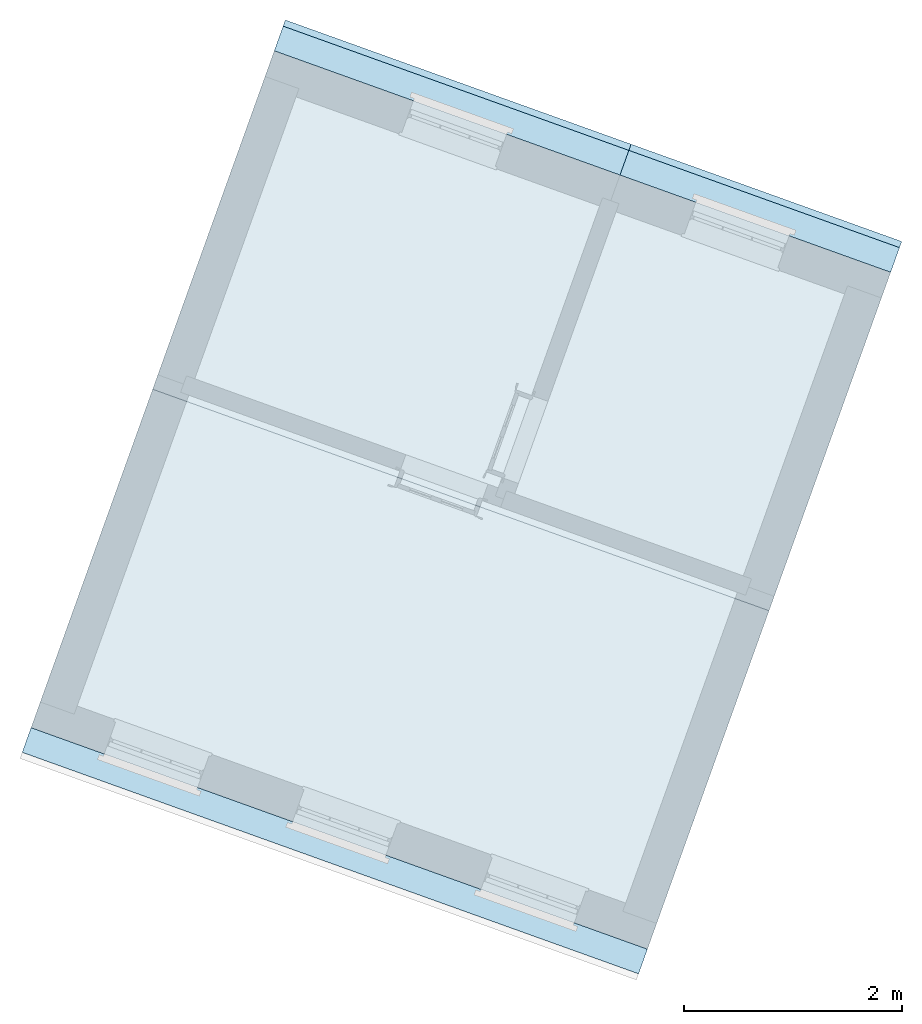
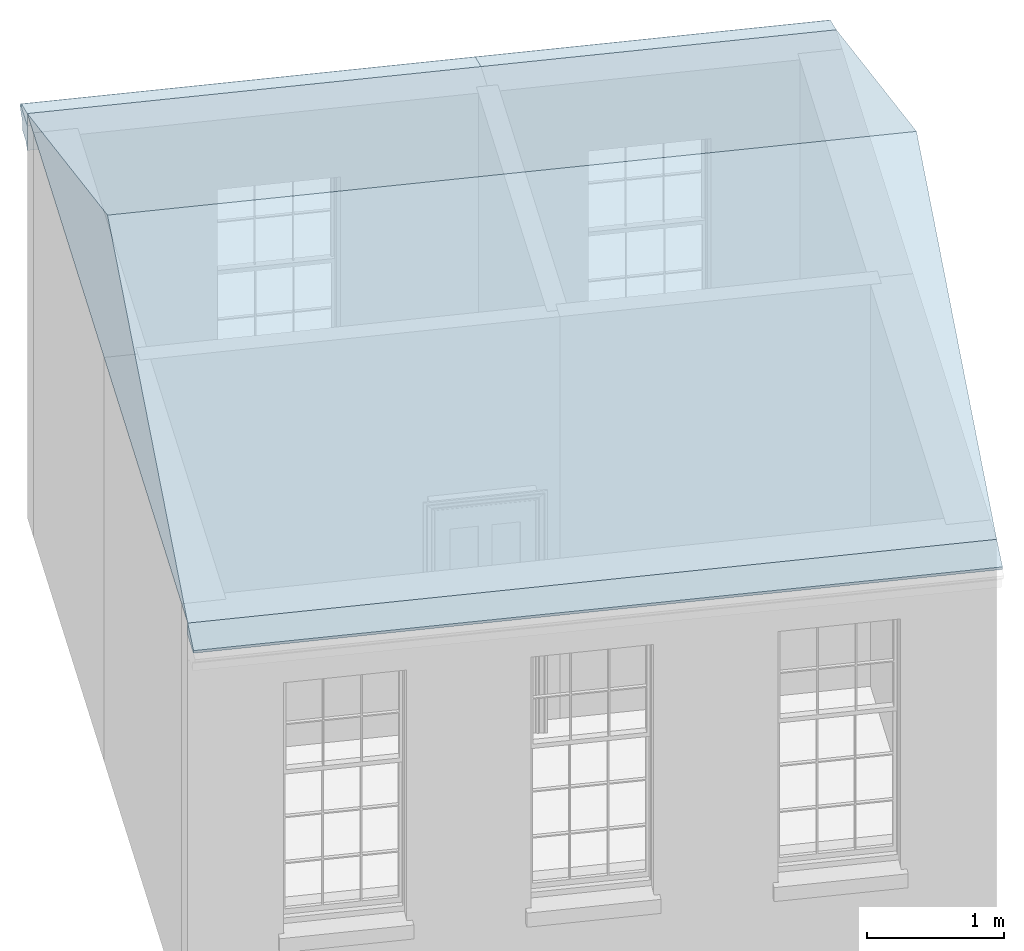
# One storey, part 3 of 3: 6 roofs.
"""IFC4 building model written with IfcOpenShell, lengths in metres."""

import ifcopenshell
import ifcopenshell.guid

model = None  # the IFC model being written
_history = None  # IfcOwnerHistory: only IFC2X3 demands one
_inside = {}  # id of a spatial element -> (the spatial element, [elements in it])
_under = {}  # id of a project, library or spatial element -> (it, [spatial elements below it])
_declared = {}  # id of a project -> (the project, [libraries it declares])
_typed = {}  # id of a type object -> (the type object, [elements of that type])
_made_of = {}  # id of a material, layer set ... -> (it, [elements and type objects made of it])


def new_model(schema):
    """Start an empty IFC model of exactly this schema.

    Asked for "IFC4X3", IfcOpenShell would pick the latest addendum, in which some entities
    have other attributes; the version numbers below select the first issue.
    IFC2X3 requires an IfcOwnerHistory on every rooted entity: one is made here for all.
    """
    global model, _history
    if schema == "IFC4X3":
        model = ifcopenshell.file(schema_version=(4, 3, 0, 0))
    else:
        model = ifcopenshell.file(schema=schema)
    _inside.clear()
    _under.clear()
    _declared.clear()
    _typed.clear()
    _made_of.clear()
    _history = None
    if model.schema == "IFC2X3":
        org = make("IfcOrganization", Name="unknown")
        user = make(
            "IfcPersonAndOrganization",
            ThePerson=make("IfcPerson", FamilyName="unknown"),
            TheOrganization=org,
        )
        app = make(
            "IfcApplication",
            ApplicationDeveloper=org,
            Version="unknown",
            ApplicationFullName="unknown",
            ApplicationIdentifier="unknown",
        )
        _history = make(
            "IfcOwnerHistory",
            OwningUser=user,
            OwningApplication=app,
            ChangeAction="ADDED",
            CreationDate=0,
        )
    return model


def make(cls, **values):
    """One entity of the class cls with the attributes given. An attribute that is None is left unset."""
    return model.create_entity(
        cls, **{name: value for name, value in values.items() if value is not None}
    )


def rooted(cls, **values):
    """An entity with a GlobalId (a new one), such as an element, a storey or a relation."""
    return make(cls, GlobalId=ifcopenshell.guid.new(), OwnerHistory=_history, **values)


def si_unit(unit_type, name, prefix=None):
    """IfcSIUnit, for example si_unit("LENGTHUNIT", "METRE", prefix="MILLI")."""
    return make("IfcSIUnit", UnitType=unit_type, Prefix=prefix, Name=name)


def assignment(units):
    """IfcUnitAssignment: the units of a project."""
    return None if units is None else make("IfcUnitAssignment", Units=units)


def point(xyz):
    """IfcCartesianPoint."""
    return None if xyz is None else make("IfcCartesianPoint", Coordinates=xyz)


def direction(xyz):
    """IfcDirection."""
    return None if xyz is None else make("IfcDirection", DirectionRatios=xyz)


def frame(location, z_axis=None, x_axis=None):
    """IfcAxis2Placement3D, a coordinate frame: its origin and axes. An axis left out is left unset."""
    return make(
        "IfcAxis2Placement3D",
        Location=point(location),
        Axis=direction(z_axis),
        RefDirection=direction(x_axis),
    )


def origin():
    """The frame at (0, 0, 0) with its axes left unset."""
    return frame((0.0, 0.0, 0.0))


def origin_with_axes():
    """The frame at (0, 0, 0) with the z axis (0, 0, 1) and the x axis (1, 0, 0) written out."""
    return frame((0.0, 0.0, 0.0), z_axis=(0.0, 0.0, 1.0), x_axis=(1.0, 0.0, 0.0))


def place(relative_to, where):
    """IfcLocalPlacement: puts the frame where relative to a parent placement (None: the world)."""
    return make(
        "IfcLocalPlacement", PlacementRelTo=relative_to, RelativePlacement=where
    )


def context(
    kind, dimensions, precision=None, world=None, true_north=None, identifier=None
):
    """IfcGeometricRepresentationContext, for example the 3D "Model" context."""
    return make(
        "IfcGeometricRepresentationContext",
        ContextIdentifier=identifier,
        ContextType=kind,
        CoordinateSpaceDimension=dimensions,
        Precision=precision,
        WorldCoordinateSystem=world,
        TrueNorth=true_north,
    )


def subcontext(parent, identifier, kind, view, scale=None):
    """IfcGeometricRepresentationSubContext, for example "Body" below "Model"."""
    return make(
        "IfcGeometricRepresentationSubContext",
        ContextIdentifier=identifier,
        ContextType=kind,
        ParentContext=parent,
        TargetScale=scale,
        TargetView=view,
    )


def project(units=None, contexts=None):
    """IfcProject with its units and contexts."""
    return rooted(
        "IfcProject",
        Name="project",
        RepresentationContexts=contexts,
        UnitsInContext=assignment(units),
    )


def spatial(cls, under=None, at=None, **own):
    """A site, building, storey or space (cls), placed at a placement, below another one or the project."""
    s = rooted(cls, ObjectPlacement=at, **own)
    if under is not None:
        _under.setdefault(under.id(), (under, []))[1].append(s)
    return s


def polyline(points):
    """IfcPolyline through the points."""
    return make("IfcPolyline", Points=[point(p) for p in points])


def outline(outer, holes=None, kind="AREA"):
    """IfcArbitraryClosedProfileDef: a profile drawn as a closed curve; with holes, ...WithVoids."""
    if holes is None:
        return make("IfcArbitraryClosedProfileDef", ProfileType=kind, OuterCurve=outer)
    return make(
        "IfcArbitraryProfileDefWithVoids",
        ProfileType=kind,
        OuterCurve=outer,
        InnerCurves=holes,
    )


def extrude(swept, where, along, depth):
    """IfcExtrudedAreaSolid: the profile swept, set in the frame where, extruded along a direction by depth."""
    return make(
        "IfcExtrudedAreaSolid",
        SweptArea=swept,
        Position=where,
        ExtrudedDirection=direction(along),
        Depth=depth,
    )


def clip(a, b, op="DIFFERENCE"):
    """IfcBooleanClippingResult: the solid a cut by the half space b."""
    return make(
        "IfcBooleanClippingResult", Operator=op, FirstOperand=a, SecondOperand=b
    )


def halfspace(plane, agree):
    """IfcHalfSpaceSolid: all space on one side of the plane z = 0 of the frame plane."""
    return make(
        "IfcHalfSpaceSolid",
        BaseSurface=make("IfcPlane", Position=plane),
        AgreementFlag=agree,
    )


def faces_of(points, faces, orient=None, outer=None):
    """IfcFace entities. A face is a list of loops; a loop is a list of indices into points, from 0.

    orient and outer hold one flag for each loop. By default every Orientation is true, the
    first loop of a face is its IfcFaceOuterBound and the others are IfcFaceBound.
    """
    made = []
    for i, loops in enumerate(faces):
        bounds = []
        for j, loop in enumerate(loops):
            is_outer = j == 0 if outer is None else outer[i][j]
            bounds.append(
                make(
                    "IfcFaceOuterBound" if is_outer else "IfcFaceBound",
                    Bound=make("IfcPolyLoop", Polygon=[points[k] for k in loop]),
                    Orientation=True if orient is None else orient[i][j],
                )
            )
        made.append(make("IfcFace", Bounds=bounds))
    return made


def faceted_brep(points, faces, orient=None, outer=None, voids=None):
    """IfcFacetedBrep: a solid bounded by flat faces; with voids (closed shells), ...WithVoids."""
    shared = [point(p) for p in points]
    hull = make("IfcClosedShell", CfsFaces=faces_of(shared, faces, orient, outer))
    if voids is None:
        return make("IfcFacetedBrep", Outer=hull)
    return make(
        "IfcFacetedBrepWithVoids",
        Outer=hull,
        Voids=[
            make(cls, CfsFaces=faces_of(shared, fs, o, b)) for cls, fs, o, b in voids
        ],
    )


def shape(context_of_items, identifier, shape_type, items):
    """IfcShapeRepresentation: the items that make up one representation, for example the "Body"."""
    return make(
        "IfcShapeRepresentation",
        ContextOfItems=context_of_items,
        RepresentationIdentifier=identifier,
        RepresentationType=shape_type,
        Items=items,
    )


def material_profile(
    of_material, cross_section, Name=None, Category=None, Priority=None
):
    """IfcMaterialProfile: a cross section and its material."""
    return make(
        "IfcMaterialProfile",
        Name=Name,
        Material=of_material,
        Profile=cross_section,
        Priority=Priority,
        Category=Category,
    )


def profile_set(profiles, Name=None, composite=None):
    """IfcMaterialProfileSet."""
    return make(
        "IfcMaterialProfileSet",
        Name=Name,
        MaterialProfiles=profiles,
        CompositeProfile=composite,
    )


def profile_usage(for_profile_set, cardinal=None, extent=None):
    """IfcMaterialProfileSetUsage: how a profile set lies along its element."""
    return make(
        "IfcMaterialProfileSetUsage",
        ForProfileSet=for_profile_set,
        CardinalPoint=cardinal,
        ReferenceExtent=extent,
    )


def made_of(thing, what):
    """Note that an element or type object is made of a material, layer set ...; save() writes the relation."""
    if what is not None:
        _made_of.setdefault(what.id(), (what, []))[1].append(thing)
    return thing


def type_object(cls, material=None, **own):
    """A type object (cls), such as IfcWallType, which elements share."""
    return made_of(rooted(cls, **own), material)


def element(
    cls,
    number,
    at=None,
    inside=None,
    cuts=None,
    type_object=None,
    material=None,
    context=None,
    identifier="Body",
    shape_type=None,
    held_by="IfcProductDefinitionShape",
    body=None,
    shapes=None,
    **own,
):
    """One element of the class cls, such as IfcWall. Its Tag is "e" and its number.

    at: its placement. inside: the storey or other place that contains it. cuts: it is an
    opening in that element (IfcRelVoidsElement). A single representation is given by context,
    identifier, shape_type and body (its items); several are given by shapes. held_by: the class
    of the entity that holds the representations. save() writes the other relations.
    """
    e = rooted(cls, Tag="e%d" % number, ObjectPlacement=at, **own)
    if body is not None:
        shapes = [shape(context, identifier, shape_type, body)]
    if shapes is not None:
        e.Representation = make(held_by, Representations=shapes)
    if inside is not None:
        _inside.setdefault(inside.id(), (inside, []))[1].append(e)
    if cuts is not None:
        rooted(
            "IfcRelVoidsElement", RelatingBuildingElement=cuts, RelatedOpeningElement=e
        )
    if type_object is not None:
        _typed.setdefault(type_object.id(), (type_object, []))[1].append(e)
    return made_of(e, material)


def aggregate(whole, parts):
    """IfcRelAggregates: a whole, such as a stair, and the parts it consists of."""
    return rooted("IfcRelAggregates", RelatingObject=whole, RelatedObjects=parts)


def save(model, path):
    """Write the relations noted so far, then the file.

    IfcRelAggregates (storeys below a building ...), IfcRelContainedInSpatialStructure (elements
    in a storey), IfcRelDefinesByType, IfcRelAssociatesMaterial and IfcRelDeclares: one each for
    every whole, place, type object, material and project.
    """
    for whole, parts in _under.values():
        aggregate(whole, parts)
    for where, things in _inside.values():
        rooted(
            "IfcRelContainedInSpatialStructure",
            RelatedElements=things,
            RelatingStructure=where,
        )
    for kind, things in _typed.values():
        rooted("IfcRelDefinesByType", RelatedObjects=things, RelatingType=kind)
    for what, things in _made_of.values():
        rooted("IfcRelAssociatesMaterial", RelatedObjects=things, RelatingMaterial=what)
    for by, libraries in _declared.values():
        rooted("IfcRelDeclares", RelatingContext=by, RelatedDefinitions=libraries)
    model.write(path)


model = new_model("IFC4")

# Units and contexts
model_context = context("Model", 3, world=origin_with_axes())
body_context = subcontext(model_context, "Body", "Model", "MODEL_VIEW")
ifc_project = project(units=[si_unit("PLANEANGLEUNIT", "RADIAN"), si_unit("MASSUNIT", "GRAM", prefix="KILO"), si_unit("FORCEUNIT", "NEWTON", prefix="KILO"), si_unit("LENGTHUNIT", "METRE"), si_unit("AREAUNIT", "SQUARE_METRE"), si_unit("VOLUMEUNIT", "CUBIC_METRE")], contexts=[model_context, model_context])

# Sites, building, storey
site_1_placement = place(None, origin_with_axes())
site_1 = spatial("IfcSite", under=ifc_project, at=site_1_placement, Name="Tamar")
site_2_placement = place(site_1_placement, origin_with_axes())
site_2 = spatial("IfcSite", under=site_1, at=site_2_placement, Name="Site plot-25", CompositionType="ELEMENT")
building_placement = place(None, origin_with_axes())
building = spatial("IfcBuilding", under=site_2, at=building_placement, Name="Building plot-25", CompositionType="ELEMENT")
storey_placement = place(None, frame((0.0, 0.0, 29.45), z_axis=(0.0, 0.0, 1.0), x_axis=(1.0, 0.0, 0.0)))
storey = spatial("IfcBuildingStorey", under=building, at=storey_placement, Name="plot-25 1", CompositionType="ELEMENT", Elevation=29.45)

# Roofs
ifc_material_profile_1 = material_profile(None, outline(polyline([(0.25, -0.11), (0.48, -0.11), (0.49, -0.08), (0.25, 0.0), (0.25, -0.11)])))
ifc_profile_set_1 = profile_set([ifc_material_profile_1])
ifc_profile_usage_1 = profile_usage(ifc_profile_set_1)
roof_type_1 = type_object("IfcRoofType", Name="eaves_1", PredefinedType="FREEFORM", material=ifc_profile_set_1)
roof_1_placement = place(storey_placement, frame((280.609322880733, 269.783088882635, 3.6), z_axis=(-0.941087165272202, 0.338164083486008, 0.0), x_axis=(-0.338164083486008, -0.941087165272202, 0.0)))
element("IfcRoof", 1, at=roof_1_placement, inside=storey, type_object=roof_type_1, material=ifc_profile_usage_1, Name="eaves_1", context=body_context, shape_type="Clipping", body=[
    clip(clip(extrude(outline(polyline([(0.25, -0.11), (0.48, -0.11), (0.49, -0.08), (0.25, 0.0), (0.25, -0.11)])), origin_with_axes(), (0.0, 0.0, 1.0), 7.99999999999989), halfspace(frame((0.0, 0.0, 6.99999999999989), z_axis=(-2.13775144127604e-14, 0.0, -1.0), x_axis=(0.0, 1.0, 0.0)), True)), halfspace(frame((0.0, 0.0, 1.0), z_axis=(-2.13775144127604e-14, 0.0, -1.0), x_axis=(0.0, 1.0, 0.0)), False)),
])
ifc_material_profile_2 = material_profile(None, outline(polyline([(0.25, -0.11), (0.25, -0.33), (0.265, -0.33), (0.268, -0.318), (0.274, -0.309), (0.283, -0.303), (0.295, -0.3), (0.295, -0.285), (0.455, -0.285), (0.455, -0.205), (0.47, -0.205), (0.47, -0.19), (0.483, -0.189), (0.494, -0.186), (0.506, -0.179), (0.514, -0.17), (0.52, -0.16), (0.529, -0.149), (0.539, -0.143), (0.55, -0.14), (0.55, -0.12), (0.48, -0.11), (0.25, -0.11)])))
ifc_profile_set_2 = profile_set([ifc_material_profile_2])
ifc_profile_usage_2 = profile_usage(ifc_profile_set_2)
roof_type_2 = type_object("IfcRoofType", Name="eaves_0", PredefinedType="FREEFORM", material=ifc_profile_set_2)
roof_2_placement = place(storey_placement, frame((278.306733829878, 277.081079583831, 3.6), z_axis=(0.941087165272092, -0.338164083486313, 0.0), x_axis=(0.338164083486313, 0.941087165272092, 0.0)))
element("IfcRoof", 2, at=roof_2_placement, inside=storey, type_object=roof_type_2, material=ifc_profile_usage_2, Name="eaves_0", context=body_context, shape_type="Clipping", body=[
    clip(clip(extrude(outline(polyline([(0.25, -0.11), (0.25, -0.33), (0.265, -0.33), (0.268, -0.318), (0.274, -0.309), (0.283, -0.303), (0.295, -0.3), (0.295, -0.285), (0.455, -0.285), (0.455, -0.205), (0.47, -0.205), (0.47, -0.19), (0.483, -0.189), (0.494, -0.186), (0.506, -0.179), (0.514, -0.17), (0.52, -0.16), (0.529, -0.149), (0.539, -0.143), (0.55, -0.14), (0.55, -0.12), (0.48, -0.11), (0.25, -0.11)])), origin_with_axes(), (0.0, 0.0, 1.0), 4.63485533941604), halfspace(frame((0.0, 0.0, 3.63485533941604), z_axis=(1.32614439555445e-14, 0.0, -1.0), x_axis=(0.0, 1.0, 0.0)), True)), halfspace(frame((0.0, 0.0, 1.0), z_axis=(1.32614439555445e-14, 0.0, -1.0), x_axis=(0.0, 1.0, 0.0)), False)),
])
ifc_profile_usage_3 = profile_usage(ifc_profile_set_2)
roof_3_placement = place(storey_placement, frame((275.139839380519, 278.219050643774, 3.6), z_axis=(0.941087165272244, -0.338164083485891, 0.0), x_axis=(0.338164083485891, 0.941087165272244, 0.0)))
element("IfcRoof", 3, at=roof_3_placement, inside=storey, type_object=roof_type_2, material=ifc_profile_usage_3, Name="eaves_0", context=body_context, shape_type="Clipping", body=[
    clip(clip(extrude(outline(polyline([(0.25, -0.11), (0.25, -0.33), (0.265, -0.33), (0.268, -0.318), (0.274, -0.309), (0.283, -0.303), (0.295, -0.3), (0.295, -0.285), (0.455, -0.285), (0.455, -0.205), (0.47, -0.205), (0.47, -0.19), (0.483, -0.189), (0.494, -0.186), (0.506, -0.179), (0.514, -0.17), (0.52, -0.16), (0.529, -0.149), (0.539, -0.143), (0.55, -0.14), (0.55, -0.12), (0.48, -0.11), (0.25, -0.11)])), origin_with_axes(), (0.0, 0.0, 1.0), 5.36514466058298), halfspace(frame((0.0, 0.0, 4.36514466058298), z_axis=(4.62235635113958e-13, 0.0, -1.0), x_axis=(0.0, 1.0, 0.0)), True)), halfspace(frame((0.0, 0.0, 1.0), z_axis=(-4.05803522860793e-15, 0.0, -1.0), x_axis=(0.0, 1.0, 0.0)), False)),
])
ifc_material_profile_3 = material_profile(None, outline(polyline([(0.25, -0.11), (0.48, -0.11), (0.49, -0.08), (0.25, 0.0), (0.25, -0.11)])))
ifc_profile_set_3 = profile_set([ifc_material_profile_3])
ifc_profile_usage_4 = profile_usage(ifc_profile_set_3)
roof_type_3 = type_object("IfcRoofType", Name="eaves_1", PredefinedType="FREEFORM", material=ifc_profile_set_3)
roof_4_placement = place(storey_placement, frame((278.306733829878, 277.081079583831, 3.6), z_axis=(0.941087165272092, -0.338164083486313, 0.0), x_axis=(0.338164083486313, 0.941087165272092, 0.0)))
element("IfcRoof", 4, at=roof_4_placement, inside=storey, type_object=roof_type_3, material=ifc_profile_usage_4, Name="eaves_1", context=body_context, shape_type="Clipping", body=[
    clip(clip(extrude(outline(polyline([(0.25, -0.11), (0.48, -0.11), (0.49, -0.08), (0.25, 0.0), (0.25, -0.11)])), origin_with_axes(), (0.0, 0.0, 1.0), 4.63485533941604), halfspace(frame((0.0, 0.0, 3.63485533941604), z_axis=(1.32614439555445e-14, 0.0, -1.0), x_axis=(0.0, 1.0, 0.0)), True)), halfspace(frame((0.0, 0.0, 1.0), z_axis=(1.32614439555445e-14, 0.0, -1.0), x_axis=(0.0, 1.0, 0.0)), False)),
])
ifc_profile_usage_5 = profile_usage(ifc_profile_set_3)
roof_5_placement = place(storey_placement, frame((275.139839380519, 278.219050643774, 3.6), z_axis=(0.941087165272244, -0.338164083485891, 0.0), x_axis=(0.338164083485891, 0.941087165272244, 0.0)))
element("IfcRoof", 5, at=roof_5_placement, inside=storey, type_object=roof_type_3, material=ifc_profile_usage_5, Name="eaves_1", context=body_context, shape_type="Clipping", body=[
    clip(clip(extrude(outline(polyline([(0.25, -0.11), (0.48, -0.11), (0.49, -0.08), (0.25, 0.0), (0.25, -0.11)])), origin_with_axes(), (0.0, 0.0, 1.0), 5.36514466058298), halfspace(frame((0.0, 0.0, 4.36514466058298), z_axis=(4.62235635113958e-13, 0.0, -1.0), x_axis=(0.0, 1.0, 0.0)), True)), halfspace(frame((0.0, 0.0, 1.0), z_axis=(-4.05803522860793e-15, 0.0, -1.0), x_axis=(0.0, 1.0, 0.0)), False)),
])
roof_6_placement = place(building_placement, origin())
element("IfcRoof", 6, at=roof_6_placement, inside=storey, Name="Roof", PredefinedType="FREEFORM", context=body_context, shape_type="Brep", body=[
    faceted_brep([(273.937172, 271.914966, 33.05), (279.583695, 269.885981, 33.05), (280.697843, 272.986578, 34.414708), (275.05132, 275.015562, 34.414708), (281.811991, 276.087174, 33.05), (276.165468, 278.116158, 33.05)], [[[0, 1, 2, 3]], [[4, 5, 3, 2]], [[5, 4, 1, 0]], [[5, 0, 3]], [[1, 4, 2]]]),
])

save(model, "model.ifc")
